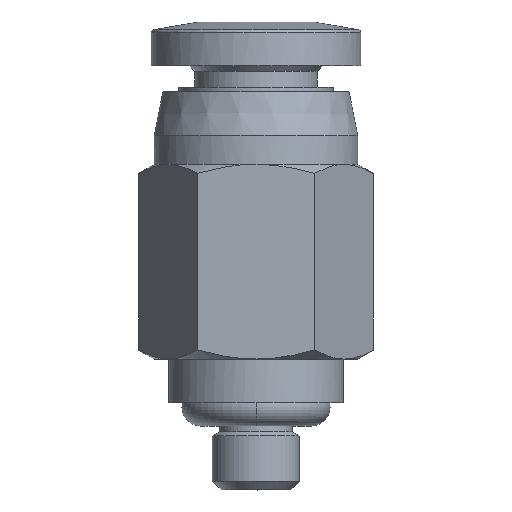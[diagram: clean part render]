
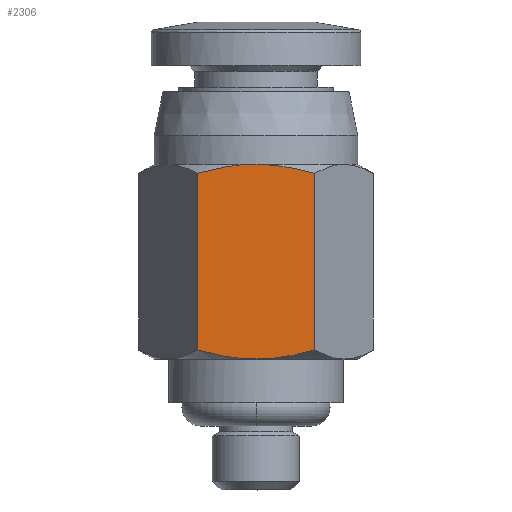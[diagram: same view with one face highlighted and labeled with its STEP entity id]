
A CAD part, top view. The second image highlights one B-rep face of the part: STEP entity #2306.
In plain terms, the highlighted planar face has unit normal (0, 0, 1).
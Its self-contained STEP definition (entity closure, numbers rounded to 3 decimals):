
#40 = ORIENTED_EDGE ( 'NONE', *, *, #1196, .T. ) ;
#118 = CARTESIAN_POINT ( 'NONE',  ( 0., 4.5, 3.5 ) ) ;
#280 = B_SPLINE_CURVE_WITH_KNOTS ( 'NONE', 3,
 ( #3643, #3300, #951, #1350, #4091, #3430 ),
 .UNSPECIFIED., .F., .F.,
 ( 4, 2, 4 ),
 ( 0., 0.5, 1. ),
 .UNSPECIFIED. ) ;
#281 = CARTESIAN_POINT ( 'NONE',  ( -1.145, 11.095, 3.5 ) ) ;
#347 = VERTEX_POINT ( 'NONE', #947 ) ;
#552 = CARTESIAN_POINT ( 'NONE',  ( -1.304, 4.628, 3.5 ) ) ;
#610 = CARTESIAN_POINT ( 'NONE',  ( -1.317, 11.062, 3.5 ) ) ;
#611 = EDGE_CURVE ( 'NONE', #347, #1821, #2720, .T. ) ;
#646 = CARTESIAN_POINT ( 'NONE',  ( -2.021, 10.887, 3.5 ) ) ;
#675 = CARTESIAN_POINT ( 'NONE',  ( -1.015, 11.117, 3.5 ) ) ;
#873 = CARTESIAN_POINT ( 'NONE',  ( 0.891, 11.136, 3.5 ) ) ;
#891 = B_SPLINE_CURVE_WITH_KNOTS ( 'NONE', 3,
 ( #3012, #3281, #552, #2332, #3665, #3326 ),
 .UNSPECIFIED., .F., .F.,
 ( 4, 2, 4 ),
 ( 0., 0.5, 1. ),
 .UNSPECIFIED. ) ;
#931 = CARTESIAN_POINT ( 'NONE',  ( 2.021, 6.838, 3.5 ) ) ;
#947 = CARTESIAN_POINT ( 'NONE',  ( 0., 11.2, 3.5 ) ) ;
#949 = CARTESIAN_POINT ( 'NONE',  ( -1.84, 10.94, 3.5 ) ) ;
#951 = CARTESIAN_POINT ( 'NONE',  ( 0.643, 4.526, 3.5 ) ) ;
#1147 = CARTESIAN_POINT ( 'NONE',  ( -2.021, 4.813, 3.5 ) ) ;
#1156 = CARTESIAN_POINT ( 'NONE',  ( 0., 11.2, 3.5 ) ) ;
#1176 = CARTESIAN_POINT ( 'NONE',  ( 2.021, 10.887, 3.5 ) ) ;
#1186 = EDGE_CURVE ( 'NONE', #1821, #2341, #2347, .T. ) ;
#1196 = EDGE_CURVE ( 'NONE', #1381, #2341, #280, .T. ) ;
#1261 = CARTESIAN_POINT ( 'NONE',  ( 2.021, 10.887, 3.5 ) ) ;
#1340 = AXIS2_PLACEMENT_3D ( 'NONE', #4104, #2112, #3125 ) ;
#1350 = CARTESIAN_POINT ( 'NONE',  ( 1.304, 4.628, 3.5 ) ) ;
#1381 = VERTEX_POINT ( 'NONE', #118 ) ;
#1539 = CARTESIAN_POINT ( 'NONE',  ( 0.931, 11.13, 3.5 ) ) ;
#1638 = CARTESIAN_POINT ( 'NONE',  ( -1.059, 11.11, 3.5 ) ) ;
#1675 = CARTESIAN_POINT ( 'NONE',  ( -2.021, 6.838, 3.5 ) ) ;
#1740 = CARTESIAN_POINT ( 'NONE',  ( -0.643, 11.174, 3.5 ) ) ;
#1821 = VERTEX_POINT ( 'NONE', #2663 ) ;
#1880 = B_SPLINE_CURVE_WITH_KNOTS ( 'NONE', 3,
 ( #4268, #949, #3296, #2303, #610, #1971, #281, #1638, #675, #1740, #4376, #3719 ),
 .UNSPECIFIED., .F., .F.,
 ( 4, 2, 2, 2, 2, 4 ),
 ( 0., 0.25, 0.375, 0.437, 0.5, 1. ),
 .UNSPECIFIED. ) ;
#1963 = CARTESIAN_POINT ( 'NONE',  ( 0.646, 11.166, 3.5 ) ) ;
#1971 = CARTESIAN_POINT ( 'NONE',  ( -1.188, 11.087, 3.5 ) ) ;
#2092 = B_SPLINE_CURVE_WITH_KNOTS ( 'NONE', 3,
 ( #646, #3713, #1675, #2380 ),
 .UNSPECIFIED., .F., .F.,
 ( 4, 4 ),
 ( 0., 1. ),
 .UNSPECIFIED. ) ;
#2105 = EDGE_CURVE ( 'NONE', #3073, #3434, #2092, .T. ) ;
#2112 = DIRECTION ( 'NONE',  ( 0., 0., 1. ) ) ;
#2176 = PLANE ( 'NONE',  #1340 ) ;
#2236 = CARTESIAN_POINT ( 'NONE',  ( -2.021, 10.887, 3.5 ) ) ;
#2251 = CARTESIAN_POINT ( 'NONE',  ( 1.659, 10.992, 3.5 ) ) ;
#2272 = CARTESIAN_POINT ( 'NONE',  ( 2.021, 4.813, 3.5 ) ) ;
#2303 = CARTESIAN_POINT ( 'NONE',  ( -1.403, 11.044, 3.5 ) ) ;
#2306 = ADVANCED_FACE ( 'NONE', ( #2421 ), #2176, .T. ) ;
#2332 = CARTESIAN_POINT ( 'NONE',  ( -0.643, 4.526, 3.5 ) ) ;
#2341 = VERTEX_POINT ( 'NONE', #2272 ) ;
#2347 = B_SPLINE_CURVE_WITH_KNOTS ( 'NONE', 3,
 ( #1261, #2620, #931, #3987 ),
 .UNSPECIFIED., .F., .F.,
 ( 4, 4 ),
 ( 0., 1. ),
 .UNSPECIFIED. ) ;
#2380 = CARTESIAN_POINT ( 'NONE',  ( -2.021, 4.813, 3.5 ) ) ;
#2403 = ORIENTED_EDGE ( 'NONE', *, *, #3218, .F. ) ;
#2415 = ORIENTED_EDGE ( 'NONE', *, *, #4224, .T. ) ;
#2421 = FACE_OUTER_BOUND ( 'NONE', #2582, .T. ) ;
#2560 = CARTESIAN_POINT ( 'NONE',  ( 0.566, 11.174, 3.5 ) ) ;
#2582 = EDGE_LOOP ( 'NONE', ( #3044, #4083, #2403, #3791, #2415, #40 ) ) ;
#2620 = CARTESIAN_POINT ( 'NONE',  ( 2.021, 8.862, 3.5 ) ) ;
#2663 = CARTESIAN_POINT ( 'NONE',  ( 2.021, 10.887, 3.5 ) ) ;
#2720 = B_SPLINE_CURVE_WITH_KNOTS ( 'NONE', 3,
 ( #1156, #2891, #3287, #2560, #1963, #4237, #3910, #873, #1539, #3977, #2251, #1176 ),
 .UNSPECIFIED., .F., .F.,
 ( 4, 2, 2, 2, 2, 4 ),
 ( 0., 0.25, 0.375, 0.437, 0.5, 1. ),
 .UNSPECIFIED. ) ;
#2891 = CARTESIAN_POINT ( 'NONE',  ( 0.163, 11.2, 3.5 ) ) ;
#3012 = CARTESIAN_POINT ( 'NONE',  ( -2.021, 4.813, 3.5 ) ) ;
#3044 = ORIENTED_EDGE ( 'NONE', *, *, #1186, .F. ) ;
#3073 = VERTEX_POINT ( 'NONE', #2236 ) ;
#3125 = DIRECTION ( 'NONE',  ( 1., 0., 0. ) ) ;
#3218 = EDGE_CURVE ( 'NONE', #3073, #347, #1880, .T. ) ;
#3281 = CARTESIAN_POINT ( 'NONE',  ( -1.653, 4.707, 3.5 ) ) ;
#3287 = CARTESIAN_POINT ( 'NONE',  ( 0.324, 11.194, 3.5 ) ) ;
#3296 = CARTESIAN_POINT ( 'NONE',  ( -1.664, 10.985, 3.5 ) ) ;
#3300 = CARTESIAN_POINT ( 'NONE',  ( 0.318, 4.5, 3.5 ) ) ;
#3326 = CARTESIAN_POINT ( 'NONE',  ( 0., 4.5, 3.5 ) ) ;
#3430 = CARTESIAN_POINT ( 'NONE',  ( 2.021, 4.813, 3.5 ) ) ;
#3434 = VERTEX_POINT ( 'NONE', #1147 ) ;
#3643 = CARTESIAN_POINT ( 'NONE',  ( 0., 4.5, 3.5 ) ) ;
#3665 = CARTESIAN_POINT ( 'NONE',  ( -0.319, 4.5, 3.5 ) ) ;
#3713 = CARTESIAN_POINT ( 'NONE',  ( -2.021, 8.862, 3.5 ) ) ;
#3719 = CARTESIAN_POINT ( 'NONE',  ( 0., 11.2, 3.5 ) ) ;
#3791 = ORIENTED_EDGE ( 'NONE', *, *, #2105, .T. ) ;
#3910 = CARTESIAN_POINT ( 'NONE',  ( 0.809, 11.147, 3.5 ) ) ;
#3977 = CARTESIAN_POINT ( 'NONE',  ( 1.316, 11.07, 3.5 ) ) ;
#3987 = CARTESIAN_POINT ( 'NONE',  ( 2.021, 4.813, 3.5 ) ) ;
#4083 = ORIENTED_EDGE ( 'NONE', *, *, #611, .F. ) ;
#4091 = CARTESIAN_POINT ( 'NONE',  ( 1.653, 4.706, 3.5 ) ) ;
#4104 = CARTESIAN_POINT ( 'NONE',  ( 0., 4.5, 3.5 ) ) ;
#4224 = EDGE_CURVE ( 'NONE', #3434, #1381, #891, .T. ) ;
#4237 = CARTESIAN_POINT ( 'NONE',  ( 0.768, 11.152, 3.5 ) ) ;
#4268 = CARTESIAN_POINT ( 'NONE',  ( -2.021, 10.887, 3.5 ) ) ;
#4376 = CARTESIAN_POINT ( 'NONE',  ( -0.326, 11.2, 3.5 ) ) ;
